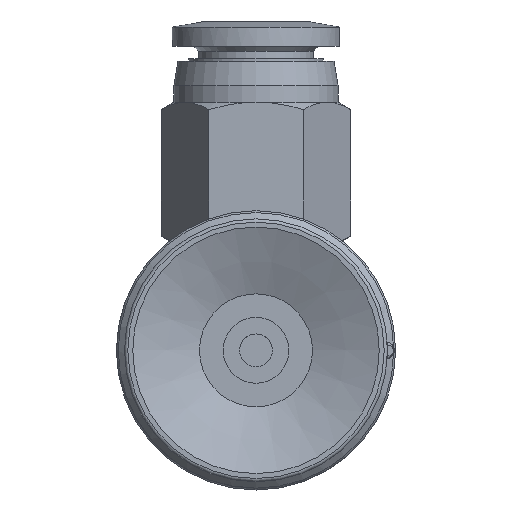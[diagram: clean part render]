
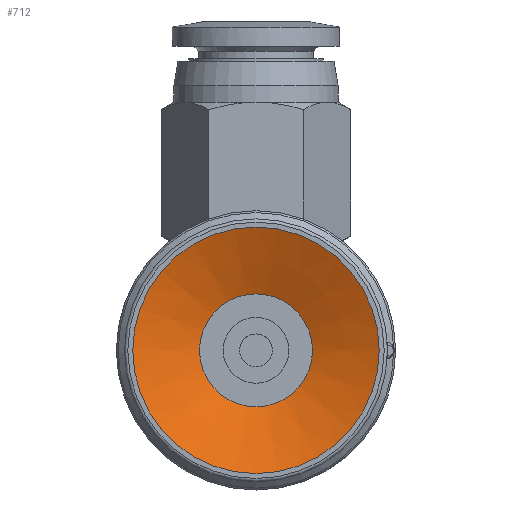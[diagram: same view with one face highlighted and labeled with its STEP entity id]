
A CAD part, front view. The second image highlights one B-rep face of the part: STEP entity #712.
In plain terms, the highlighted conical face has half-angle 67.5 degrees and reference radius 3.437 mm.
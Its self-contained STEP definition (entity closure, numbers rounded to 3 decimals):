
#712=ADVANCED_FACE('',(#1062,#1063),#1064,.F.);
#1062=FACE_BOUND('',#2518,.T.);
#1063=FACE_OUTER_BOUND('',#2519,.T.);
#1064=CONICAL_SURFACE('',#2520,3.437,1.178);
#2518=EDGE_LOOP('',(#3676));
#2519=EDGE_LOOP('',(#3677));
#2520=AXIS2_PLACEMENT_3D('',#3678,#3679,#3680);
#3676=ORIENTED_EDGE('',*,*,#4282,.F.);
#3677=ORIENTED_EDGE('',*,*,#4283,.T.);
#3678=CARTESIAN_POINT('',(0.0,0.0,1.683));
#3679=DIRECTION('',(0.0,0.,-1.0));
#3680=DIRECTION('',(0.0,1.0,0.));
#4282=EDGE_CURVE('',#4770,#4770,#4771,.T.);
#4283=EDGE_CURVE('',#4772,#4772,#4773,.T.);
#4770=VERTEX_POINT('',#5953);
#4771=CIRCLE('',#5954,3.437);
#4772=VERTEX_POINT('',#5955);
#4773=CIRCLE('',#5956,7.5);
#5953=CARTESIAN_POINT('',(-3.437,0.0,1.683));
#5954=AXIS2_PLACEMENT_3D('',#6750,#6751,#6752);
#5955=CARTESIAN_POINT('',(-7.5,0.0,0.));
#5956=AXIS2_PLACEMENT_3D('',#6753,#6754,#6755);
#6750=CARTESIAN_POINT('',(0.0,0.0,1.683));
#6751=DIRECTION('',(0.0,0.,-1.0));
#6752=DIRECTION('',(0.0,1.0,0.));
#6753=CARTESIAN_POINT('',(0.0,0.0,0.));
#6754=DIRECTION('',(0.0,0.,-1.0));
#6755=DIRECTION('',(0.0,1.0,0.));
